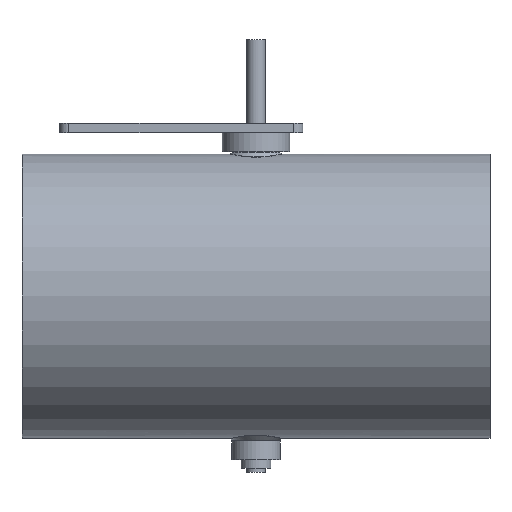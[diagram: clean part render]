
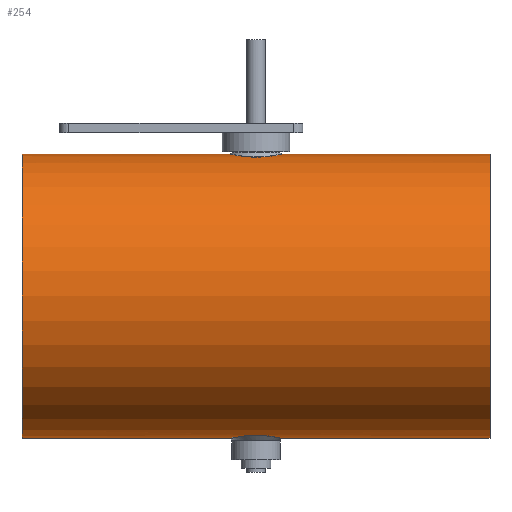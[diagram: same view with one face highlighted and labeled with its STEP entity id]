
A CAD part, top view. The second image highlights one B-rep face of the part: STEP entity #254.
In plain terms, the highlighted cylindrical face has radius 75.8 mm (diameter 151.6 mm), a full revolution.
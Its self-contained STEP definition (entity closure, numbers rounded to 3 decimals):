
#107=B_SPLINE_CURVE_WITH_KNOTS('',3,(#1512,#1513,#1514,#1515,#1516,#1517,
#1518,#1519,#1520,#1521,#1522,#1523,#1524,#1525,#1526,#1527,#1528,#1529,
#1530,#1531,#1532,#1533),.UNSPECIFIED.,.T.,.F.,(2,2,2,2,2,2,2,2,2,2,2,2,
2),(-0.062,0.,0.125,0.25,0.375,0.438,0.5,0.625,0.75,0.875,
0.938,1.,1.125),.UNSPECIFIED.);
#108=B_SPLINE_CURVE_WITH_KNOTS('',3,(#1535,#1536,#1537,#1538,#1539,#1540,
#1541,#1542,#1543,#1544,#1545,#1546,#1547,#1548,#1549,#1550,#1551,#1552,
#1553,#1554,#1555,#1556),.UNSPECIFIED.,.T.,.F.,(2,2,2,2,2,2,2,2,2,2,2,2,
2),(-0.125,0.,0.063,0.125,0.25,0.375,0.5,0.563,0.625,0.75,0.875,1.,1.063),
 .UNSPECIFIED.);
#210=CYLINDRICAL_SURFACE('',#1045,75.8);
#254=ADVANCED_FACE('',(#365,#366,#367,#368),#210,.T.);
#365=FACE_BOUND('',#491,.T.);
#366=FACE_BOUND('',#492,.T.);
#367=FACE_BOUND('',#493,.T.);
#368=FACE_BOUND('',#494,.T.);
#491=EDGE_LOOP('',(#675));
#492=EDGE_LOOP('',(#676));
#493=EDGE_LOOP('',(#677));
#494=EDGE_LOOP('',(#678));
#675=ORIENTED_EDGE('',*,*,#881,.T.);
#676=ORIENTED_EDGE('',*,*,#882,.T.);
#677=ORIENTED_EDGE('',*,*,#877,.T.);
#678=ORIENTED_EDGE('',*,*,#879,.T.);
#785=VERTEX_POINT('',#1503);
#787=VERTEX_POINT('',#1508);
#789=VERTEX_POINT('',#1534);
#790=VERTEX_POINT('',#1557);
#877=EDGE_CURVE('',#785,#785,#945,.T.);
#879=EDGE_CURVE('',#787,#787,#947,.T.);
#881=EDGE_CURVE('',#789,#789,#107,.T.);
#882=EDGE_CURVE('',#790,#790,#108,.T.);
#945=CIRCLE('',#1039,75.8);
#947=CIRCLE('',#1042,75.8);
#1039=AXIS2_PLACEMENT_3D('',#1502,#1254,#1255);
#1042=AXIS2_PLACEMENT_3D('',#1507,#1260,#1261);
#1045=AXIS2_PLACEMENT_3D('',#1558,#1266,#1267);
#1254=DIRECTION('',(-1.,0.,0.));
#1255=DIRECTION('',(0.,0.,1.));
#1260=DIRECTION('',(1.,0.,0.));
#1261=DIRECTION('',(0.,0.,-1.));
#1266=DIRECTION('',(1.,0.,0.));
#1267=DIRECTION('',(0.,0.,-1.));
#1502=CARTESIAN_POINT('',(125.,-33.3,125.));
#1503=CARTESIAN_POINT('',(125.,-33.3,200.8));
#1507=CARTESIAN_POINT('',(-125.,-33.3,125.));
#1508=CARTESIAN_POINT('',(-125.,-33.3,49.2));
#1512=CARTESIAN_POINT('',(-1.915,-107.469,109.347));
#1513=CARTESIAN_POINT('',(-7.562,-107.826,111.109));
#1514=CARTESIAN_POINT('',(-10.621,-108.374,113.968));
#1515=CARTESIAN_POINT('',(-14.122,-109.069,120.892));
#1516=CARTESIAN_POINT('',(-14.603,-109.195,125.036));
#1517=CARTESIAN_POINT('',(-12.852,-108.813,132.605));
#1518=CARTESIAN_POINT('',(-10.608,-108.314,136.114));
#1519=CARTESIAN_POINT('',(-5.817,-107.729,139.396));
#1520=CARTESIAN_POINT('',(-3.978,-107.568,140.164));
#1521=CARTESIAN_POINT('',(-0.112,-107.436,140.797));
#1522=CARTESIAN_POINT('',(1.892,-107.468,140.655));
#1523=CARTESIAN_POINT('',(7.524,-107.822,138.912));
#1524=CARTESIAN_POINT('',(10.597,-108.369,136.071));
#1525=CARTESIAN_POINT('',(14.133,-109.071,129.094));
#1526=CARTESIAN_POINT('',(14.606,-109.195,124.972));
#1527=CARTESIAN_POINT('',(12.847,-108.811,117.377));
#1528=CARTESIAN_POINT('',(10.591,-108.311,113.868));
#1529=CARTESIAN_POINT('',(5.799,-107.727,110.595));
#1530=CARTESIAN_POINT('',(3.94,-107.566,109.826));
#1531=CARTESIAN_POINT('',(0.102,-107.437,109.205));
#1532=CARTESIAN_POINT('',(-1.915,-107.469,109.347));
#1533=CARTESIAN_POINT('',(-7.562,-107.826,111.109));
#1534=CARTESIAN_POINT('',(-3.798,-107.588,109.935));
#1535=CARTESIAN_POINT('',(-7.563,41.226,111.109));
#1536=CARTESIAN_POINT('',(-1.915,40.869,109.347));
#1537=CARTESIAN_POINT('',(0.083,40.837,109.204));
#1538=CARTESIAN_POINT('',(3.931,40.966,109.822));
#1539=CARTESIAN_POINT('',(5.783,41.125,110.584));
#1540=CARTESIAN_POINT('',(10.614,41.714,113.883));
#1541=CARTESIAN_POINT('',(12.856,42.213,117.393));
#1542=CARTESIAN_POINT('',(14.607,42.596,124.998));
#1543=CARTESIAN_POINT('',(14.117,42.467,129.126));
#1544=CARTESIAN_POINT('',(10.611,41.772,136.043));
#1545=CARTESIAN_POINT('',(7.552,41.226,138.889));
#1546=CARTESIAN_POINT('',(1.943,40.87,140.647));
#1547=CARTESIAN_POINT('',(-0.037,40.836,140.8));
#1548=CARTESIAN_POINT('',(-3.935,40.965,140.18));
#1549=CARTESIAN_POINT('',(-5.777,41.125,139.417));
#1550=CARTESIAN_POINT('',(-10.595,41.711,136.134));
#1551=CARTESIAN_POINT('',(-12.844,42.211,132.638));
#1552=CARTESIAN_POINT('',(-14.61,42.596,125.007));
#1553=CARTESIAN_POINT('',(-14.139,42.472,120.921));
#1554=CARTESIAN_POINT('',(-10.599,41.769,113.927));
#1555=CARTESIAN_POINT('',(-7.563,41.226,111.109));
#1556=CARTESIAN_POINT('',(-1.915,40.869,109.347));
#1557=CARTESIAN_POINT('',(-3.798,40.988,109.935));
#1558=CARTESIAN_POINT('',(-125.,-33.3,125.));
